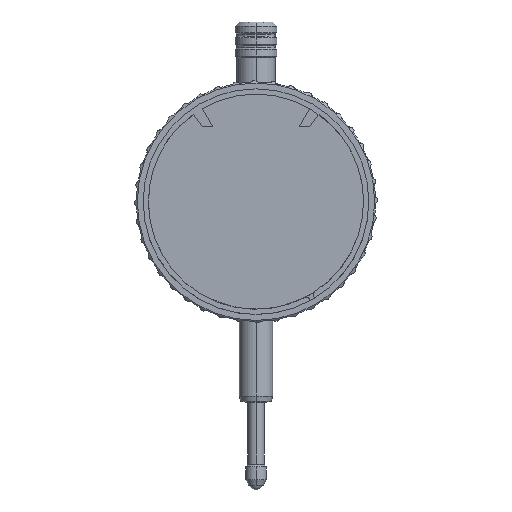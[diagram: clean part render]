
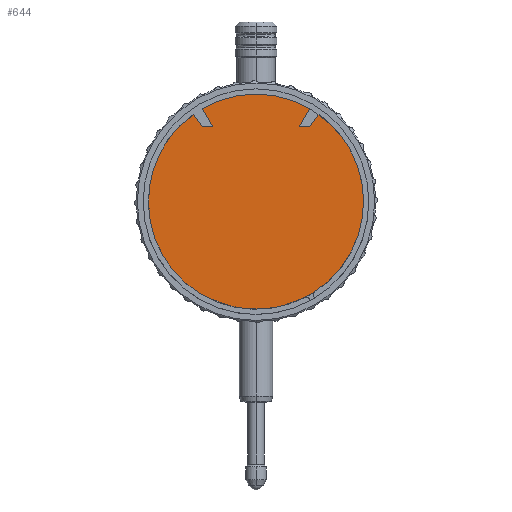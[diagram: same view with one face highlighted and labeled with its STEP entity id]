
A CAD part, front view. The second image highlights one B-rep face of the part: STEP entity #644.
In plain terms, the highlighted planar face has unit normal (0, -1, 0).
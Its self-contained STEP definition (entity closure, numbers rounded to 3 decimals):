
#644=ADVANCED_FACE('',(#1576),#1577,.F.);
#1576=FACE_OUTER_BOUND('',#2792,.T.);
#1577=PLANE('',#2793);
#2792=EDGE_LOOP('',(#4867,#4868,#4869,#4870,#4871,#4872,#4873,#4874,#4875,#4876,#4877,#4878));
#2793=AXIS2_PLACEMENT_3D('',#4879,#4880,#4881);
#4867=ORIENTED_EDGE('',*,*,#7920,.T.);
#4868=ORIENTED_EDGE('',*,*,#8060,.T.);
#4869=ORIENTED_EDGE('',*,*,#8106,.T.);
#4870=ORIENTED_EDGE('',*,*,#8062,.T.);
#4871=ORIENTED_EDGE('',*,*,#7917,.T.);
#4872=ORIENTED_EDGE('',*,*,#7904,.T.);
#4873=ORIENTED_EDGE('',*,*,#8094,.T.);
#4874=ORIENTED_EDGE('',*,*,#8067,.T.);
#4875=ORIENTED_EDGE('',*,*,#8071,.T.);
#4876=ORIENTED_EDGE('',*,*,#8074,.T.);
#4877=ORIENTED_EDGE('',*,*,#8093,.T.);
#4878=ORIENTED_EDGE('',*,*,#7908,.T.);
#4879=CARTESIAN_POINT('',(0.0,-14.8,0.0));
#4880=DIRECTION('',(0.0,1.0,0.0));
#4881=DIRECTION('',(-1.0,0.0,0.0));
#7904=EDGE_CURVE('',#9778,#9775,#9779,.T.);
#7908=EDGE_CURVE('',#9786,#9784,#9787,.T.);
#7917=EDGE_CURVE('',#9798,#9778,#9801,.T.);
#7920=EDGE_CURVE('',#9784,#9803,#9806,.T.);
#8060=EDGE_CURVE('',#9803,#10009,#10011,.T.);
#8062=EDGE_CURVE('',#10013,#9798,#10014,.T.);
#8067=EDGE_CURVE('',#10021,#10019,#10022,.T.);
#8071=EDGE_CURVE('',#10019,#10025,#10027,.T.);
#8074=EDGE_CURVE('',#10025,#10029,#10031,.T.);
#8093=EDGE_CURVE('',#10029,#9786,#10058,.T.);
#8094=EDGE_CURVE('',#9775,#10021,#10059,.T.);
#8106=EDGE_CURVE('',#10009,#10013,#10072,.T.);
#9775=VERTEX_POINT('',#14146);
#9778=VERTEX_POINT('',#14150);
#9779=CIRCLE('',#14151,25.75);
#9784=VERTEX_POINT('',#14157);
#9786=VERTEX_POINT('',#14160);
#9787=CIRCLE('',#14161,25.75);
#9798=VERTEX_POINT('',#14174);
#9801=CIRCLE('',#14178,0.875);
#9803=VERTEX_POINT('',#14180);
#9806=CIRCLE('',#14184,0.875);
#10009=VERTEX_POINT('',#14432);
#10011=CIRCLE('',#14435,0.875);
#10013=VERTEX_POINT('',#14437);
#10014=CIRCLE('',#14438,0.875);
#10019=VERTEX_POINT('',#14444);
#10021=VERTEX_POINT('',#14447);
#10022=LINE('',#14448,#14449);
#10025=VERTEX_POINT('',#14453);
#10027=LINE('',#14456,#14457);
#10029=VERTEX_POINT('',#14459);
#10031=LINE('',#14462,#14463);
#10058=CIRCLE('',#14500,25.75);
#10059=CIRCLE('',#14501,25.75);
#10072=CIRCLE('',#14515,27.0);
#14146=CARTESIAN_POINT('',(22.3,-14.8,12.875));
#14150=CARTESIAN_POINT('',(-11.62,-14.8,-22.979));
#14151=AXIS2_PLACEMENT_3D('',#17768,#17769,#17770);
#14157=CARTESIAN_POINT('',(-14.091,-14.8,-21.553));
#14160=CARTESIAN_POINT('',(-22.3,-14.8,-12.875));
#14161=AXIS2_PLACEMENT_3D('',#17776,#17777,#17778);
#14174=CARTESIAN_POINT('',(-12.772,-14.8,-23.323));
#14178=AXIS2_PLACEMENT_3D('',#17794,#17795,#17796);
#14180=CARTESIAN_POINT('',(-13.812,-14.8,-22.723));
#14184=AXIS2_PLACEMENT_3D('',#17798,#17799,#17800);
#14432=CARTESIAN_POINT('',(-14.102,-14.8,-23.025));
#14435=AXIS2_PLACEMENT_3D('',#18003,#18004,#18005);
#14437=CARTESIAN_POINT('',(-12.889,-14.8,-23.725));
#14438=AXIS2_PLACEMENT_3D('',#18006,#18007,#18008);
#14444=CARTESIAN_POINT('',(12.821,-14.8,17.927));
#14447=CARTESIAN_POINT('',(14.979,-14.8,20.945));
#14448=CARTESIAN_POINT('',(6.95,-14.8,9.718));
#14449=VECTOR('',#18014,1.);
#14453=CARTESIAN_POINT('',(10.35,-14.8,17.927));
#14456=CARTESIAN_POINT('',(5.793,-14.8,17.927));
#14457=VECTOR('',#18017,1.0);
#14459=CARTESIAN_POINT('',(12.875,-14.8,22.3));
#14462=CARTESIAN_POINT('',(5.806,-14.8,10.057));
#14463=VECTOR('',#18019,1.);
#14500=AXIS2_PLACEMENT_3D('',#18039,#18040,#18041);
#14501=AXIS2_PLACEMENT_3D('',#18042,#18043,#18044);
#14515=AXIS2_PLACEMENT_3D('',#18061,#18062,#18063);
#17768=CARTESIAN_POINT('',(0.,-14.8,0.));
#17769=DIRECTION('',(0.0,-1.0,0.0));
#17770=DIRECTION('',(0.866,0.0,0.5));
#17776=CARTESIAN_POINT('',(0.,-14.8,0.));
#17777=DIRECTION('',(0.0,-1.0,0.0));
#17778=DIRECTION('',(0.866,0.0,0.5));
#17794=CARTESIAN_POINT('',(-12.015,-14.8,-23.76));
#17795=DIRECTION('',(0.0,1.0,0.0));
#17796=DIRECTION('',(0.866,-0.0,-0.5));
#17798=CARTESIAN_POINT('',(-14.569,-14.8,-22.285));
#17799=DIRECTION('',(0.0,1.0,0.0));
#17800=DIRECTION('',(0.866,-0.0,-0.5));
#18003=CARTESIAN_POINT('',(-14.569,-14.8,-22.285));
#18004=DIRECTION('',(0.0,1.0,0.0));
#18005=DIRECTION('',(0.866,-0.0,-0.5));
#18006=CARTESIAN_POINT('',(-12.015,-14.8,-23.76));
#18007=DIRECTION('',(0.0,1.0,0.0));
#18008=DIRECTION('',(0.866,-0.0,-0.5));
#18014=DIRECTION('',(-0.582,0.0,-0.813));
#18017=DIRECTION('',(-1.0,0.0,0.));
#18019=DIRECTION('',(0.5,0.0,0.866));
#18039=CARTESIAN_POINT('',(0.,-14.8,0.));
#18040=DIRECTION('',(0.0,-1.0,0.0));
#18041=DIRECTION('',(0.866,0.0,0.5));
#18042=CARTESIAN_POINT('',(0.,-14.8,0.));
#18043=DIRECTION('',(0.0,-1.0,0.0));
#18044=DIRECTION('',(0.866,0.0,0.5));
#18061=CARTESIAN_POINT('',(0.0,-14.8,0.0));
#18062=DIRECTION('',(0.0,-1.0,0.0));
#18063=DIRECTION('',(-1.0,0.0,0.0));
